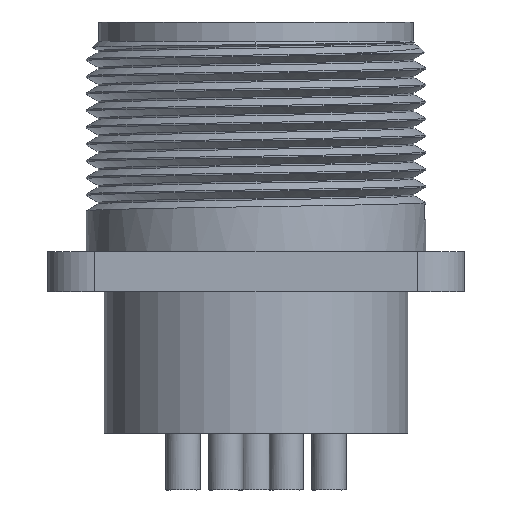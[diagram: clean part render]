
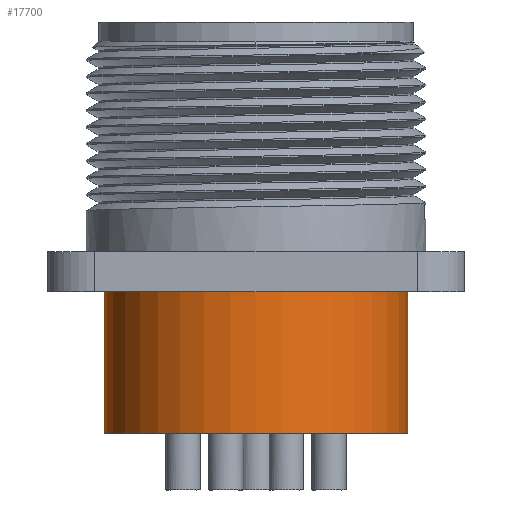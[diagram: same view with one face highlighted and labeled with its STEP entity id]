
A CAD part, front view. The second image highlights one B-rep face of the part: STEP entity #17700.
In plain terms, the highlighted cylindrical face has radius 12.7 mm (diameter 25.4 mm), a partial arc.
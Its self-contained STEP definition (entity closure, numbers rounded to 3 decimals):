
#1268 = AXIS2_PLACEMENT_3D ( 'NONE', #22955, #2936, #26298 ) ;
#2936 = DIRECTION ( 'NONE',  ( 0., 0., 1. ) ) ;
#3018 = CARTESIAN_POINT ( 'NONE',  ( 12.7, 0., -34.4 ) ) ;
#3183 = EDGE_LOOP ( 'NONE', ( #28020, #24038, #14542, #30673 ) ) ;
#3611 = VERTEX_POINT ( 'NONE', #20993 ) ;
#4023 = LINE ( 'NONE', #3018, #11858 ) ;
#6195 = DIRECTION ( 'NONE',  ( 0., 0., -1. ) ) ;
#6756 = CIRCLE ( 'NONE', #6822, 12.7 ) ;
#6822 = AXIS2_PLACEMENT_3D ( 'NONE', #26155, #6195, #29552 ) ;
#7800 = CYLINDRICAL_SURFACE ( 'NONE', #41510, 12.7 ) ;
#8804 = EDGE_CURVE ( 'NONE', #3611, #32906, #4023, .T. ) ;
#10581 = CARTESIAN_POINT ( 'NONE',  ( -12.7, 0., -34.4 ) ) ;
#11349 = CARTESIAN_POINT ( 'NONE',  ( -12.7, 0., -34.4 ) ) ;
#11858 = VECTOR ( 'NONE', #23035, 1000. ) ;
#14542 = ORIENTED_EDGE ( 'NONE', *, *, #8804, .T. ) ;
#17277 = DIRECTION ( 'NONE',  ( 0., 0., 1. ) ) ;
#17700 = ADVANCED_FACE ( 'NONE', ( #26586 ), #7800, .T. ) ;
#20891 = CARTESIAN_POINT ( 'NONE',  ( 0., 0., -34.4 ) ) ;
#20993 = CARTESIAN_POINT ( 'NONE',  ( 12.7, 0., -34.4 ) ) ;
#21031 = DIRECTION ( 'NONE',  ( 0., 0., 1. ) ) ;
#22955 = CARTESIAN_POINT ( 'NONE',  ( 0., 0., -34.4 ) ) ;
#23035 = DIRECTION ( 'NONE',  ( 0., 0., 1. ) ) ;
#23895 = VERTEX_POINT ( 'NONE', #11349 ) ;
#24038 = ORIENTED_EDGE ( 'NONE', *, *, #38955, .T. ) ;
#25790 = CARTESIAN_POINT ( 'NONE',  ( 12.7, 0., -22.59 ) ) ;
#26155 = CARTESIAN_POINT ( 'NONE',  ( 0., 0., -22.59 ) ) ;
#26298 = DIRECTION ( 'NONE',  ( 1., 0., 0. ) ) ;
#26309 = LINE ( 'NONE', #10581, #33154 ) ;
#26554 = EDGE_CURVE ( 'NONE', #23895, #37224, #26309, .T. ) ;
#26586 = FACE_OUTER_BOUND ( 'NONE', #3183, .T. ) ;
#28020 = ORIENTED_EDGE ( 'NONE', *, *, #26554, .F. ) ;
#29552 = DIRECTION ( 'NONE',  ( 1., 0., 0. ) ) ;
#30673 = ORIENTED_EDGE ( 'NONE', *, *, #34321, .T. ) ;
#32906 = VERTEX_POINT ( 'NONE', #25790 ) ;
#33154 = VECTOR ( 'NONE', #17277, 1000. ) ;
#34212 = CIRCLE ( 'NONE', #1268, 12.7 ) ;
#34321 = EDGE_CURVE ( 'NONE', #32906, #37224, #6756, .T. ) ;
#35703 = CARTESIAN_POINT ( 'NONE',  ( -12.7, 0., -22.59 ) ) ;
#37224 = VERTEX_POINT ( 'NONE', #35703 ) ;
#38955 = EDGE_CURVE ( 'NONE', #23895, #3611, #34212, .T. ) ;
#41010 = DIRECTION ( 'NONE',  ( 1., 0., 0. ) ) ;
#41510 = AXIS2_PLACEMENT_3D ( 'NONE', #20891, #21031, #41010 ) ;
